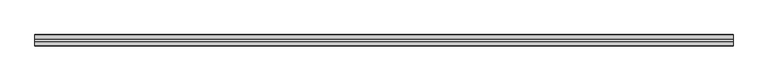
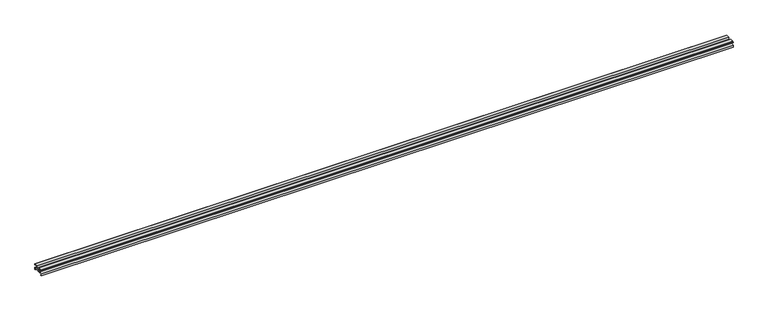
"""IFC4 building model written with IfcOpenShell, lengths in millimetres: proxy geometry, Weiku - Montante - Acoplamento vidro : Weiku - Montante - Acoplamento vidro."""

from ifc_helpers import new_model, si_unit, frame, origin, place, context, project, spatial, polyline, outline, extrude, source, transform, mapped, element, save


def generic_models_159d528c(model_context):
    return source(origin(), model_context, "Body", "SweptSolid", [
        extrude(outline(polyline([(-35.405, 5.1494), (-35.405, 6.8004), (-45.741, 6.8004), (-45.741, 2.6094), (-43.8784, 2.6094), (-43.8784, 0.0), (-47.9014508, 0.0), (-47.9014508, 8.79), (-34.946, 8.79), (-34.946, 23.3104), (-43.5397, 23.3104), (-43.5397, 19.204), (-47.9, 19.204), (-47.9, 22.8024), (-46.9264, 22.8024), (-46.9264, 20.3894), (-44.725, 20.3894), (-44.725, 23.9454), (-45.5264504, 23.9454), (-45.5264504, 25.3), (-30.4164, 25.3), (-30.4164, 16.283), (-32.4484, 16.283), (-32.4484, 8.8), (-15.4516, 8.8), (-15.4516, 16.283), (-17.4836, 16.283), (-17.4836, 25.3), (-2.3735496, 25.3), (-2.3735496, 23.9454), (-3.175, 23.9454), (-3.175, 20.3894), (-0.9736, 20.3894), (-0.9736, 22.8024), (0.0, 22.8024), (0.0, 19.204), (-4.3603, 19.204), (-4.3603, 23.3104), (-12.954, 23.3104), (-12.954, 8.79), (0.0014508, 8.79), (0.0014508, 0.0), (-4.0216, 0.0), (-4.0216, 2.6094), (-2.159, 2.6094), (-2.159, 6.8004), (-12.495, 6.8004), (-12.495, 5.1494), (-35.405, 5.1494)])), frame((-1452.9, 0.0, 0.0), z_axis=(1.0, 0.0, 0.0), x_axis=(0.0, 1.0, 0.0)), (0.0, 0.0, 1.0), 2905.8),
    ])


if __name__ == "__main__":
    model = new_model("IFC4")
    model_context = context("Model", 3, world=origin())
    ifc_project = project(units=[si_unit("LENGTHUNIT", "METRE", prefix="MILLI")], contexts=[model_context])
    site = spatial("IfcSite", under=ifc_project)
    building = spatial("IfcBuilding", under=site)
    placement = place(None, origin())
    generic_models_shape = generic_models_159d528c(model_context)
    element("IfcBuildingElementProxy", 1, Name="Weiku - Montante - Acoplamento vidro : Weiku - Montante - Acoplamento vidro", ObjectType="Weiku - Montante - Acoplamento vidro : Weiku - Montante - Acoplamento vidro", at=placement, inside=building, context=model_context, shape_type="MappedRepresentation", body=[
        mapped(generic_models_shape, transform((0.0, 0.0, 0.0), x_axis=(1.0, 0.0, 0.0), y_axis=(0.0, 1.0, 0.0), z_axis=(0.0, 0.0, 1.0))),
    ])
    save(model, "model.ifc")
